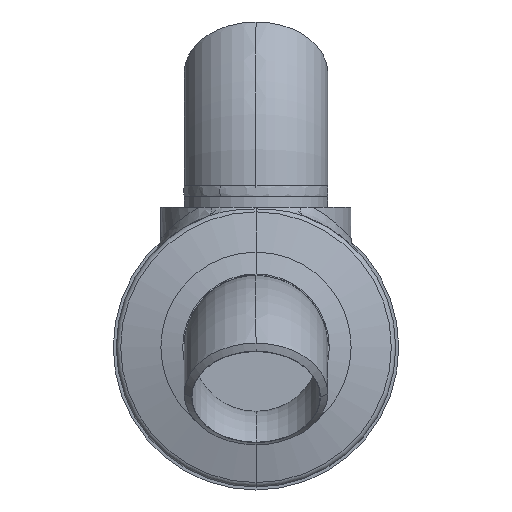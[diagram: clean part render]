
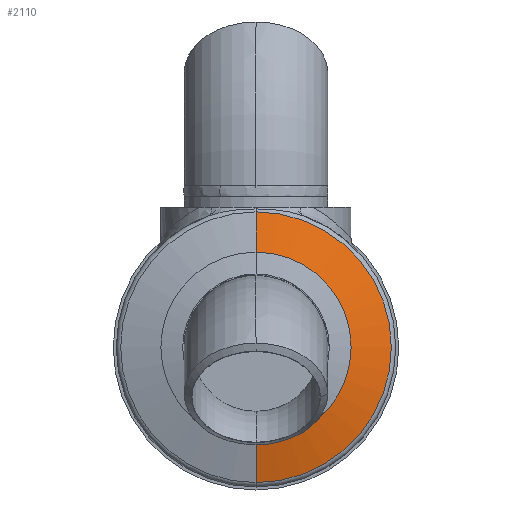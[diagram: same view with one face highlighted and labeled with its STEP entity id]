
A CAD part, front view. The second image highlights one B-rep face of the part: STEP entity #2110.
In plain terms, the highlighted conical face has half-angle 75 degrees and reference radius 47 mm.
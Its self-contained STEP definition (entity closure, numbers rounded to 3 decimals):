
#32920 = CARTESIAN_POINT ( 'NONE',  ( 0., -91., -32. ) ) ;
#250 = LINE ( 'NONE', #251, #252 ) ;
#251 = CARTESIAN_POINT ( 'NONE',  ( 0., -86.981, -47. ) ) ;
#252 = VECTOR ( 'NONE', #253, 1000. ) ;
#253 = DIRECTION ( 'NONE',  ( 0., 0.259, -0.966 ) ) ;
#33362 = CARTESIAN_POINT ( 'NONE',  ( 0., -87.378, -45.518 ) ) ;
#782 = CIRCLE ( 'NONE', #783, 32. ) ;
#783 = AXIS2_PLACEMENT_3D ( 'NONE', #784, #785, #786 ) ;
#784 = CARTESIAN_POINT ( 'NONE',  ( 0., -91., 0. ) ) ;
#785 = DIRECTION ( 'NONE',  ( 0., -1., 0. ) ) ;
#786 = DIRECTION ( 'NONE',  ( 0., 0., 1. ) ) ;
#1745 = CARTESIAN_POINT ( 'NONE',  ( 0., -87.378, 45.518 ) ) ;
#1803 = EDGE_LOOP ( 'NONE', ( #13201, #15697, #3051, #2111 ) ) ;
#1804 = EDGE_CURVE ( 'NONE', #19509, #4949, #32309, .T. ) ;
#2110 = ADVANCED_FACE ( 'NONE', ( #32613 ), #32614, .T. ) ;
#2111 = ORIENTED_EDGE ( 'NONE', *, *, #1804, .F. ) ;
#3051 = ORIENTED_EDGE ( 'NONE', *, *, #28200, .T. ) ;
#19509 = VERTEX_POINT ( 'NONE', #32708 ) ;
#3253 = VERTEX_POINT ( 'NONE', #33362 ) ;
#19911 = VERTEX_POINT ( 'NONE', #32920 ) ;
#4949 = VERTEX_POINT ( 'NONE', #1745 ) ;
#28200 = EDGE_CURVE ( 'NONE', #3253, #4949, #12411, .T. ) ;
#12411 = CIRCLE ( 'NONE', #12412, 45.518 ) ;
#12412 = AXIS2_PLACEMENT_3D ( 'NONE', #12413, #12414, #12415 ) ;
#12413 = CARTESIAN_POINT ( 'NONE',  ( 0., -87.378, 0. ) ) ;
#12414 = DIRECTION ( 'NONE',  ( 0., -1., 0. ) ) ;
#12415 = DIRECTION ( 'NONE',  ( 0., 0., -1. ) ) ;
#28877 = EDGE_CURVE ( 'NONE', #19911, #3253, #250, .T. ) ;
#12893 = EDGE_CURVE ( 'NONE', #19911, #19509, #782, .T. ) ;
#13201 = ORIENTED_EDGE ( 'NONE', *, *, #12893, .F. ) ;
#15697 = ORIENTED_EDGE ( 'NONE', *, *, #28877, .T. ) ;
#32309 = LINE ( 'NONE', #32310, #32311 ) ;
#32310 = CARTESIAN_POINT ( 'NONE',  ( 0., -86.981, 47. ) ) ;
#32311 = VECTOR ( 'NONE', #32312, 1000. ) ;
#32312 = DIRECTION ( 'NONE',  ( 0., 0.259, 0.966 ) ) ;
#32613 = FACE_OUTER_BOUND ( 'NONE', #1803, .T. ) ;
#32614 = CONICAL_SURFACE ( 'NONE', #32615, 47., 1.309 ) ;
#32615 = AXIS2_PLACEMENT_3D ( 'NONE', #32616, #32617, #32618 ) ;
#32616 = CARTESIAN_POINT ( 'NONE',  ( 0., -86.981, 0. ) ) ;
#32617 = DIRECTION ( 'NONE',  ( 0., 1., 0. ) ) ;
#32618 = DIRECTION ( 'NONE',  ( 0., 0., 1. ) ) ;
#32708 = CARTESIAN_POINT ( 'NONE',  ( 0., -91., 32. ) ) ;
